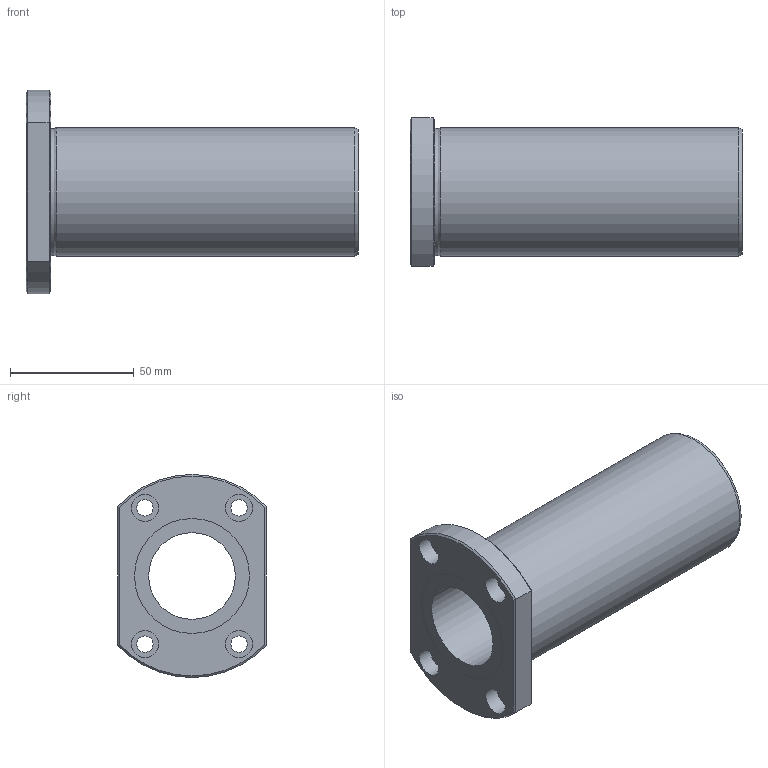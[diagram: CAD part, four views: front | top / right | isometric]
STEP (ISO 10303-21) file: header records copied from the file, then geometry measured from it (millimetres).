
FILE_DESCRIPTION((''),'2;1');
FILE_NAME('D:\製品 (図面)\カタログ用3D\リニアベアリング関連\STEP形式\LFDT\LFDT35B.stp','2010-06-03T09:47:57',('Tsuchiya'),(''),'Autodesk Inventor 10','Autodesk Inventor 10','');
FILE_SCHEMA(('AUTOMOTIVE_DESIGN { 1 0 10303 214 1 1 1 1 }'));
Length unit declared in the file: millimetre
Products named in the file (1): LFDT35B
Bounding box: 134 x 60 x 82 mm (x, y, z)
Volume: 175353.1 mm3; surface area: 45095.5 mm2
Topology: 1 solids, 1 shells, 35 faces, 68 edges, 42 vertices
Faces by surface type: plane 15, cylinder 14, cone 4, torus 1, bspline 1
Full cylindrical faces by diameter (mm): 6.6 x4, 11 x4, 35 x1, 46.4 x2, 52 x1
Entity records: 935 total; most frequent: CARTESIAN_POINT 218, DIRECTION 150, ORIENTED_EDGE 108, AXIS2_PLACEMENT_3D 69, EDGE_LOOP 66, EDGE_CURVE 54, VERTEX_POINT 42, FACE_OUTER_BOUND 35
